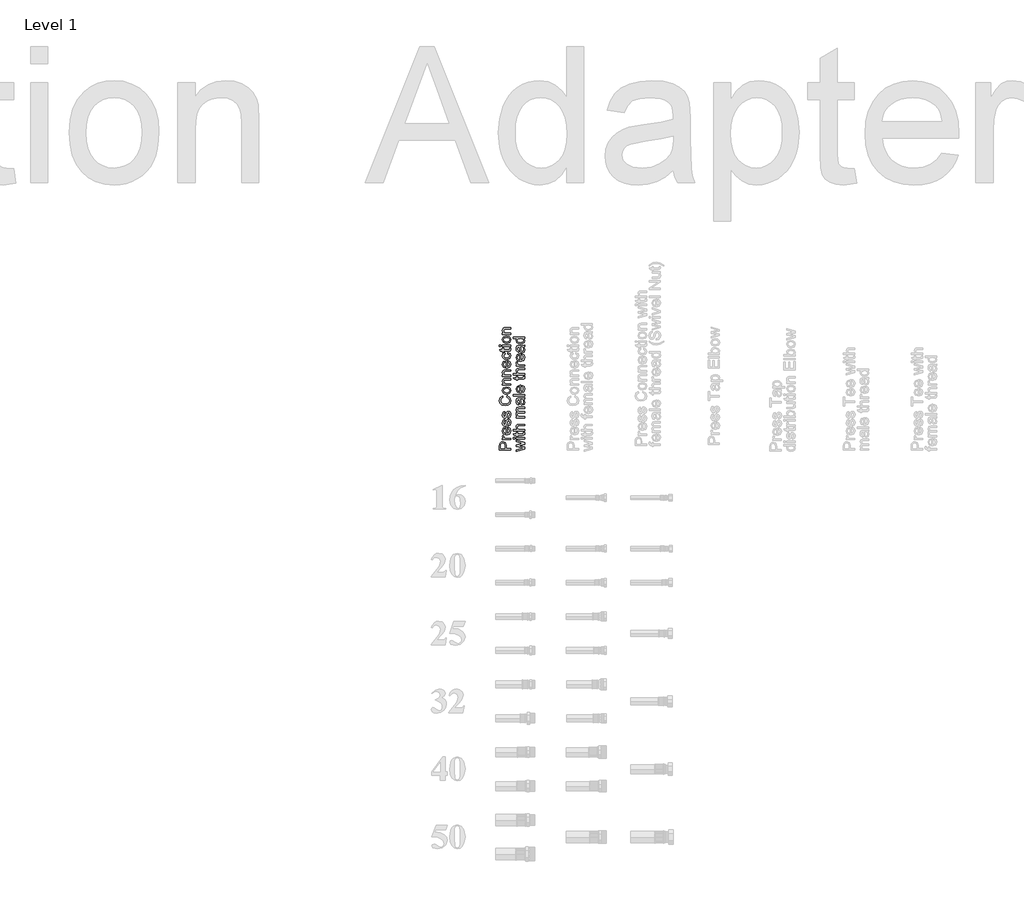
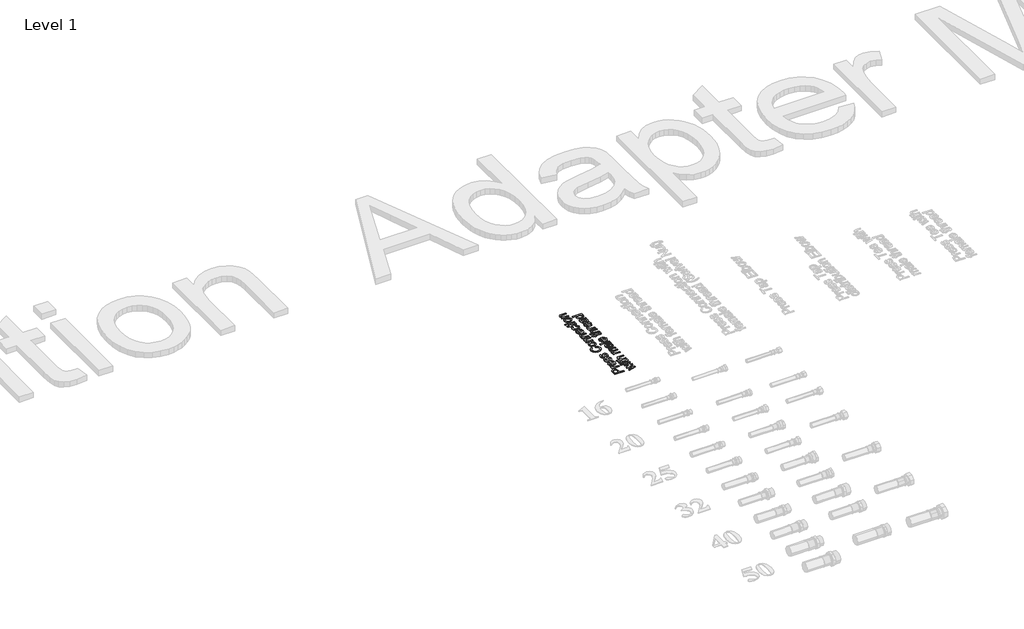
# One storey, part 40 of 57: 1 proxy.
"""IFC4 building model written with IfcOpenShell, lengths in millimetres."""

import ifcopenshell
import ifcopenshell.guid

model = None  # the IFC model being written
_history = None  # IfcOwnerHistory: only IFC2X3 demands one
_inside = {}  # id of a spatial element -> (the spatial element, [elements in it])
_under = {}  # id of a project, library or spatial element -> (it, [spatial elements below it])
_declared = {}  # id of a project -> (the project, [libraries it declares])
_typed = {}  # id of a type object -> (the type object, [elements of that type])
_made_of = {}  # id of a material, layer set ... -> (it, [elements and type objects made of it])


def new_model(schema):
    """Start an empty IFC model of exactly this schema.

    Asked for "IFC4X3", IfcOpenShell would pick the latest addendum, in which some entities
    have other attributes; the version numbers below select the first issue.
    IFC2X3 requires an IfcOwnerHistory on every rooted entity: one is made here for all.
    """
    global model, _history
    if schema == "IFC4X3":
        model = ifcopenshell.file(schema_version=(4, 3, 0, 0))
    else:
        model = ifcopenshell.file(schema=schema)
    _inside.clear()
    _under.clear()
    _declared.clear()
    _typed.clear()
    _made_of.clear()
    _history = None
    if model.schema == "IFC2X3":
        org = make("IfcOrganization", Name="unknown")
        user = make(
            "IfcPersonAndOrganization",
            ThePerson=make("IfcPerson", FamilyName="unknown"),
            TheOrganization=org,
        )
        app = make(
            "IfcApplication",
            ApplicationDeveloper=org,
            Version="unknown",
            ApplicationFullName="unknown",
            ApplicationIdentifier="unknown",
        )
        _history = make(
            "IfcOwnerHistory",
            OwningUser=user,
            OwningApplication=app,
            ChangeAction="ADDED",
            CreationDate=0,
        )
    return model


def make(cls, **values):
    """One entity of the class cls with the attributes given. An attribute that is None is left unset."""
    return model.create_entity(
        cls, **{name: value for name, value in values.items() if value is not None}
    )


def rooted(cls, **values):
    """An entity with a GlobalId (a new one), such as an element, a storey or a relation."""
    return make(cls, GlobalId=ifcopenshell.guid.new(), OwnerHistory=_history, **values)


def si_unit(unit_type, name, prefix=None):
    """IfcSIUnit, for example si_unit("LENGTHUNIT", "METRE", prefix="MILLI")."""
    return make("IfcSIUnit", UnitType=unit_type, Prefix=prefix, Name=name)


def assignment(units):
    """IfcUnitAssignment: the units of a project."""
    return None if units is None else make("IfcUnitAssignment", Units=units)


def point(xyz):
    """IfcCartesianPoint."""
    return None if xyz is None else make("IfcCartesianPoint", Coordinates=xyz)


def direction(xyz):
    """IfcDirection."""
    return None if xyz is None else make("IfcDirection", DirectionRatios=xyz)


def frame(location, z_axis=None, x_axis=None):
    """IfcAxis2Placement3D, a coordinate frame: its origin and axes. An axis left out is left unset."""
    return make(
        "IfcAxis2Placement3D",
        Location=point(location),
        Axis=direction(z_axis),
        RefDirection=direction(x_axis),
    )


def origin():
    """The frame at (0, 0, 0) with its axes left unset."""
    return frame((0.0, 0.0, 0.0))


def place(relative_to, where):
    """IfcLocalPlacement: puts the frame where relative to a parent placement (None: the world)."""
    return make(
        "IfcLocalPlacement", PlacementRelTo=relative_to, RelativePlacement=where
    )


def context(
    kind, dimensions, precision=None, world=None, true_north=None, identifier=None
):
    """IfcGeometricRepresentationContext, for example the 3D "Model" context."""
    return make(
        "IfcGeometricRepresentationContext",
        ContextIdentifier=identifier,
        ContextType=kind,
        CoordinateSpaceDimension=dimensions,
        Precision=precision,
        WorldCoordinateSystem=world,
        TrueNorth=true_north,
    )


def project(units=None, contexts=None):
    """IfcProject with its units and contexts."""
    return rooted(
        "IfcProject",
        Name="project",
        RepresentationContexts=contexts,
        UnitsInContext=assignment(units),
    )


def spatial(cls, under=None, at=None, **own):
    """A site, building, storey or space (cls), placed at a placement, below another one or the project."""
    s = rooted(cls, ObjectPlacement=at, **own)
    if under is not None:
        _under.setdefault(under.id(), (under, []))[1].append(s)
    return s


def polyline(points):
    """IfcPolyline through the points."""
    return make("IfcPolyline", Points=[point(p) for p in points])


def outline(outer, holes=None, kind="AREA"):
    """IfcArbitraryClosedProfileDef: a profile drawn as a closed curve; with holes, ...WithVoids."""
    if holes is None:
        return make("IfcArbitraryClosedProfileDef", ProfileType=kind, OuterCurve=outer)
    return make(
        "IfcArbitraryProfileDefWithVoids",
        ProfileType=kind,
        OuterCurve=outer,
        InnerCurves=holes,
    )


def extrude(swept, where, along, depth):
    """IfcExtrudedAreaSolid: the profile swept, set in the frame where, extruded along a direction by depth."""
    return make(
        "IfcExtrudedAreaSolid",
        SweptArea=swept,
        Position=where,
        ExtrudedDirection=direction(along),
        Depth=depth,
    )


def shape(context_of_items, identifier, shape_type, items):
    """IfcShapeRepresentation: the items that make up one representation, for example the "Body"."""
    return make(
        "IfcShapeRepresentation",
        ContextOfItems=context_of_items,
        RepresentationIdentifier=identifier,
        RepresentationType=shape_type,
        Items=items,
    )


def made_of(thing, what):
    """Note that an element or type object is made of a material, layer set ...; save() writes the relation."""
    if what is not None:
        _made_of.setdefault(what.id(), (what, []))[1].append(thing)
    return thing


def element(
    cls,
    number,
    at=None,
    inside=None,
    cuts=None,
    type_object=None,
    material=None,
    context=None,
    identifier="Body",
    shape_type=None,
    held_by="IfcProductDefinitionShape",
    body=None,
    shapes=None,
    **own,
):
    """One element of the class cls, such as IfcWall. Its Tag is "e" and its number.

    at: its placement. inside: the storey or other place that contains it. cuts: it is an
    opening in that element (IfcRelVoidsElement). A single representation is given by context,
    identifier, shape_type and body (its items); several are given by shapes. held_by: the class
    of the entity that holds the representations. save() writes the other relations.
    """
    e = rooted(cls, Tag="e%d" % number, ObjectPlacement=at, **own)
    if body is not None:
        shapes = [shape(context, identifier, shape_type, body)]
    if shapes is not None:
        e.Representation = make(held_by, Representations=shapes)
    if inside is not None:
        _inside.setdefault(inside.id(), (inside, []))[1].append(e)
    if cuts is not None:
        rooted(
            "IfcRelVoidsElement", RelatingBuildingElement=cuts, RelatedOpeningElement=e
        )
    if type_object is not None:
        _typed.setdefault(type_object.id(), (type_object, []))[1].append(e)
    return made_of(e, material)


def aggregate(whole, parts):
    """IfcRelAggregates: a whole, such as a stair, and the parts it consists of."""
    return rooted("IfcRelAggregates", RelatingObject=whole, RelatedObjects=parts)


def save(model, path):
    """Write the relations noted so far, then the file.

    IfcRelAggregates (storeys below a building ...), IfcRelContainedInSpatialStructure (elements
    in a storey), IfcRelDefinesByType, IfcRelAssociatesMaterial and IfcRelDeclares: one each for
    every whole, place, type object, material and project.
    """
    for whole, parts in _under.values():
        aggregate(whole, parts)
    for where, things in _inside.values():
        rooted(
            "IfcRelContainedInSpatialStructure",
            RelatedElements=things,
            RelatingStructure=where,
        )
    for kind, things in _typed.values():
        rooted("IfcRelDefinesByType", RelatedObjects=things, RelatingType=kind)
    for what, things in _made_of.values():
        rooted("IfcRelAssociatesMaterial", RelatedObjects=things, RelatingMaterial=what)
    for by, libraries in _declared.values():
        rooted("IfcRelDeclares", RelatingContext=by, RelatedDefinitions=libraries)
    model.write(path)


model = new_model("IFC4")

# Units and contexts
model_context = context("Model", 3, world=origin())
ifc_project = project(units=[si_unit("LENGTHUNIT", "METRE", prefix="MILLI")], contexts=[model_context])

# Site, building, storey
site = spatial("IfcSite", under=ifc_project)
building = spatial("IfcBuilding", under=site)
storey = spatial("IfcBuildingStorey", under=building, Name="Level 1", Elevation=27.3876384)

# Proxy
placement = place(None, origin())
element("IfcBuildingElementProxy", 1, Name="50mm Arial", ObjectType="50mm Arial", at=placement, inside=storey, context=model_context, shape_type="SweptSolid", body=[
    extrude(outline(polyline([(29419.1417262, 30406.8112945), (29368.9135711, 30406.8112945), (29368.9135711, 30425.4261235), (29369.3918177, 30432.9309162), (29371.7401311, 30439.0316259), (29376.5961734, 30442.9863574), (29383.4449099, 30444.4824108), (29394.2974288, 30440.4418402), (29398.7365382, 30425.8553191), (29398.7365382, 30413.0898139), (29419.1417262, 30413.0898139), (29419.1417262, 30406.8112945)]), holes=[polyline([(29392.4580188, 30413.0898139), (29392.4580188, 30426.2232011), (29390.152625, 30435.4693019), (29383.6656391, 30438.2038914), (29378.4662402, 30436.591342), (29375.6212861, 30432.3545677), (29375.1920905, 30426.0760483), (29375.1920905, 30413.0898139), (29392.4580188, 30413.0898139)])]), frame((0.0, 0.0, 27.3876384), z_axis=(0.0, 0.0, 1.0), x_axis=(1.0, 0.0, 0.0)), (0.0, 0.0, 1.0), 2.0),
    extrude(outline(polyline([(29419.1417262, 30452.33056), (29382.2554248, 30452.33056), (29382.2554248, 30457.8242645), (29387.7123411, 30457.8242645), (29382.6846205, 30461.7238137), (29381.4706099, 30465.6478883), (29383.4081217, 30471.9509331), (29389.0367162, 30469.8540057), (29387.7491293, 30465.4394218), (29388.9876653, 30461.8893606), (29392.4212306, 30459.6268863), (29399.754345, 30458.6090794), (29419.1417262, 30458.6090794), (29419.1417262, 30452.33056)])), frame((0.0, 0.0, 27.3876384), z_axis=(0.0, 0.0, 1.0), x_axis=(1.0, 0.0, 0.0)), (0.0, 0.0, 1.0), 2.0),
    extrude(outline(polyline([(29408.1543173, 30501.7003238), (29408.9391322, 30507.8562159), (29417.0447988, 30502.0988626), (29419.9265411, 30491.3751025), (29414.9540028, 30478.3398171), (29401.0051438, 30473.520563), (29386.5964323, 30478.388868), (29381.4706099, 30491.0194832), (29386.5841696, 30503.2883477), (29400.9683556, 30508.0524196), (29402.6606128, 30508.0156314), (29402.6606128, 30479.7990824), (29410.8153304, 30483.4104573), (29413.6480217, 30491.4977298), (29412.3359093, 30497.6536219), (29408.1543173, 30501.7003238)]), holes=[polyline([(29396.3820934, 30479.7990824), (29396.3820934, 30501.7739002), (29390.6921852, 30499.2600399), (29387.7491293, 30490.9949577), (29390.0974427, 30483.2633045), (29396.3820934, 30479.7990824)])]), frame((0.0, 0.0, 27.3876384), z_axis=(0.0, 0.0, 1.0), x_axis=(1.0, 0.0, 0.0)), (0.0, 0.0, 1.0), 2.0),
    extrude(outline(polyline([(29408.1543173, 30511.9764942), (29407.3695023, 30518.2550136), (29412.0293409, 30521.1612813), (29413.6480217, 30527.8199455), (29412.164231, 30534.2210922), (29408.6816148, 30536.3057568), (29405.8611862, 30534.2088294), (29404.0708271, 30527.7463691), (29400.9990124, 30518.2918018), (29397.412163, 30514.1653921), (29392.3476542, 30512.7613091), (29387.6694215, 30513.8894806), (29384.0948348, 30516.9674266), (29382.2370307, 30520.9589462), (29381.4706099, 30526.3606802), (29382.7030146, 30534.000363), (29386.038478, 30538.8564053), (29391.6732039, 30541.0146464), (29392.4580188, 30534.736127), (29388.9937967, 30532.3755508), (29387.7491293, 30526.8511895), (29388.9386144, 30520.8424503), (29391.7099921, 30519.0398285), (29393.5371393, 30519.7878552), (29394.9228282, 30522.1300373), (29396.2594661, 30527.5379026), (29399.2147848, 30536.7533466), (29402.5625109, 30541.0330404), (29408.0194272, 30542.5842762), (29414.0281664, 30540.7632603), (29418.3875681, 30535.5086792), (29419.9265411, 30527.7341063), (29416.9589597, 30516.7834856), (29408.1543173, 30511.9764942)])), frame((0.0, 0.0, 27.3876384), z_axis=(0.0, 0.0, 1.0), x_axis=(1.0, 0.0, 0.0)), (0.0, 0.0, 1.0), 2.0),
    extrude(outline(polyline([(29408.1543173, 30547.2931657), (29407.3695023, 30553.5716851), (29412.0293409, 30556.4779529), (29413.6480217, 30563.136617), (29412.164231, 30569.5377637), (29408.6816148, 30571.6224283), (29405.8611862, 30569.525501), (29404.0708271, 30563.0630406), (29400.9990124, 30553.6084733), (29397.412163, 30549.4820636), (29392.3476542, 30548.0779807), (29387.6694215, 30549.2061521), (29384.0948348, 30552.2840981), (29382.2370307, 30556.2756178), (29381.4706099, 30561.6773517), (29382.7030146, 30569.3170345), (29386.038478, 30574.1730768), (29391.6732039, 30576.3313179), (29392.4580188, 30570.0527985), (29388.9937967, 30567.6922224), (29387.7491293, 30562.1678611), (29388.9386144, 30556.1591218), (29391.7099921, 30554.3565), (29393.5371393, 30555.1045268), (29394.9228282, 30557.4467088), (29396.2594661, 30562.8545741), (29399.2147848, 30572.0700181), (29402.5625109, 30576.349712), (29408.0194272, 30577.9009477), (29414.0281664, 30576.0799319), (29418.3875681, 30570.8253507), (29419.9265411, 30563.0507779), (29416.9589597, 30552.1001571), (29408.1543173, 30547.2931657)])), frame((0.0, 0.0, 27.3876384), z_axis=(0.0, 0.0, 1.0), x_axis=(1.0, 0.0, 0.0)), (0.0, 0.0, 1.0), 2.0),
    extrude(outline(polyline([(29401.2871867, 30640.6861416), (29402.9058675, 30646.964661), (29415.5671395, 30639.5211819), (29419.9265411, 30626.375532), (29416.6278659, 30613.3095898), (29407.0751967, 30605.6453815), (29393.6475039, 30603.0150253), (29379.9990819, 30605.9887381), (29371.1515199, 30614.4438926), (29368.1287562, 30626.510422), (29372.0405681, 30639.0858549), (29383.0525025, 30646.179846), (29384.5485559, 30639.9013267), (29376.8291654, 30634.7509787), (29374.4072756, 30626.2651674), (29377.0928141, 30616.4427181), (29384.3033012, 30610.8938313), (29393.6352412, 30609.2935447), (29404.4509718, 30611.1881369), (29411.361022, 30617.0865116), (29413.6480217, 30625.7501326), (29410.5332875, 30635.357984), (29401.2871867, 30640.6861416)])), frame((0.0, 0.0, 27.3876384), z_axis=(0.0, 0.0, 1.0), x_axis=(1.0, 0.0, 0.0)), (0.0, 0.0, 1.0), 2.0),
    extrude(outline(polyline([(29400.6985755, 30653.2431803), (29391.8050283, 30654.601278), (29385.5541, 30658.6755711), (29381.4706099, 30669.7365565), (29386.4431482, 30681.6007508), (29400.1835407, 30686.2054071), (29411.3548906, 30684.1697934), (29417.6763296, 30678.2407619), (29419.9265411, 30669.7365565), (29414.9723969, 30657.7987857), (29400.6985755, 30653.2431803)]), holes=[polyline([(29400.6863128, 30659.5216997), (29410.4167915, 30662.4279675), (29413.6480217, 30669.7365565), (29410.3983974, 30677.02062), (29400.490109, 30679.9268877), (29390.9803594, 30677.0022259), (29387.7491293, 30669.7365565), (29390.9680967, 30662.4279675), (29400.6863128, 30659.5216997)])]), frame((0.0, 0.0, 27.3876384), z_axis=(0.0, 0.0, 1.0), x_axis=(1.0, 0.0, 0.0)), (0.0, 0.0, 1.0), 2.0),
    extrude(outline(polyline([(29419.1417262, 30693.2687414), (29382.2554248, 30693.2687414), (29382.2554248, 30699.5472608), (29387.4057727, 30699.5472608), (29382.9544006, 30704.3481208), (29381.4706099, 30710.9025517), (29382.6662264, 30716.8315832), (29385.805486, 30720.8782852), (29390.4224051, 30722.7606147), (29396.492458, 30723.0917085), (29419.1417262, 30723.0917085), (29419.1417262, 30716.8131891), (29397.3385866, 30716.8131891), (29391.7835685, 30716.0896879), (29388.8466439, 30713.532908), (29387.7491293, 30709.2225573), (29390.2139386, 30702.410609), (29399.570404, 30699.5472608), (29419.1417262, 30699.5472608), (29419.1417262, 30693.2687414)])), frame((0.0, 0.0, 27.3876384), z_axis=(0.0, 0.0, 1.0), x_axis=(1.0, 0.0, 0.0)), (0.0, 0.0, 1.0), 2.0),
    extrude(outline(polyline([(29419.1417262, 30731.7246726), (29382.2554248, 30731.7246726), (29382.2554248, 30738.003192), (29387.4057727, 30738.003192), (29382.9544006, 30742.8040521), (29381.4706099, 30749.358483), (29382.6662264, 30755.2875144), (29385.805486, 30759.3342164), (29390.4224051, 30761.2165459), (29396.492458, 30761.5476397), (29419.1417262, 30761.5476397), (29419.1417262, 30755.2691203), (29397.3385866, 30755.2691203), (29391.7835685, 30754.5456191), (29388.8466439, 30751.9888392), (29387.7491293, 30747.6784885), (29390.2139386, 30740.8665402), (29399.570404, 30738.003192), (29419.1417262, 30738.003192), (29419.1417262, 30731.7246726)])), frame((0.0, 0.0, 27.3876384), z_axis=(0.0, 0.0, 1.0), x_axis=(1.0, 0.0, 0.0)), (0.0, 0.0, 1.0), 2.0),
    extrude(outline(polyline([(29408.1543173, 30796.0059199), (29408.9391322, 30802.161812), (29417.0447988, 30796.4044588), (29419.9265411, 30785.6806986), (29414.9540028, 30772.6454132), (29401.0051438, 30767.8261591), (29386.5964323, 30772.6944642), (29381.4706099, 30785.3250793), (29386.5841696, 30797.5939439), (29400.9683556, 30802.3580157), (29402.6606128, 30802.3212275), (29402.6606128, 30774.1046785), (29410.8153304, 30777.7160534), (29413.6480217, 30785.8033259), (29412.3359093, 30791.959218), (29408.1543173, 30796.0059199)]), holes=[polyline([(29396.3820934, 30774.1046785), (29396.3820934, 30796.0794963), (29390.6921852, 30793.565636), (29387.7491293, 30785.3005539), (29390.0974427, 30777.5689006), (29396.3820934, 30774.1046785)])]), frame((0.0, 0.0, 27.3876384), z_axis=(0.0, 0.0, 1.0), x_axis=(1.0, 0.0, 0.0)), (0.0, 0.0, 1.0), 2.0),
    extrude(outline(polyline([(29405.7998725, 30832.1809828), (29406.5846874, 30838.4595022), (29416.3887426, 30833.4195188), (29419.9265411, 30823.4621795), (29414.990791, 30811.561197), (29400.8334656, 30807.0669053), (29390.404011, 30808.986023), (29383.7024273, 30814.8353467), (29381.4706099, 30823.3763404), (29384.5362932, 30832.9228782), (29393.2428337, 30837.6746873), (29394.0276486, 30831.3961679), (29389.3248905, 30828.4837687), (29387.7491293, 30823.4253913), (29390.8516007, 30816.1474592), (29400.6617873, 30813.3454246), (29410.5639443, 30816.0861455), (29413.6480217, 30823.253713), (29411.7227726, 30829.1704818), (29405.7998725, 30832.1809828)])), frame((0.0, 0.0, 27.3876384), z_axis=(0.0, 0.0, 1.0), x_axis=(1.0, 0.0, 0.0)), (0.0, 0.0, 1.0), 2.0),
    extrude(outline(polyline([(29413.9055391, 30857.2950603), (29419.3256672, 30858.0798753), (29419.9265411, 30853.3832485), (29418.8842088, 30848.1225359), (29416.1496193, 30845.498311), (29409.0249713, 30844.7380216), (29388.5339442, 30844.7380216), (29388.5339442, 30840.029132), (29382.2554248, 30840.029132), (29382.2554248, 30844.7380216), (29373.2913668, 30844.7380216), (29369.6002842, 30851.016541), (29382.2554248, 30851.016541), (29382.2554248, 30857.2950603), (29388.5339442, 30857.2950603), (29388.5339442, 30851.016541), (29408.8410303, 30851.016541), (29412.0783919, 30851.3476347), (29413.6480217, 30854.5604708), (29413.9055391, 30857.2950603)])), frame((0.0, 0.0, 27.3876384), z_axis=(0.0, 0.0, 1.0), x_axis=(1.0, 0.0, 0.0)), (0.0, 0.0, 1.0), 2.0),
    extrude(outline(polyline([(29375.1920905, 30863.5735797), (29368.9135711, 30863.5735797), (29368.9135711, 30869.8520991), (29375.1920905, 30869.8520991), (29375.1920905, 30863.5735797)])), frame((0.0, 0.0, 27.3876384), z_axis=(0.0, 0.0, 1.0), x_axis=(1.0, 0.0, 0.0)), (0.0, 0.0, 1.0), 2.0),
    extrude(outline(polyline([(29419.1417262, 30863.5735797), (29382.2554248, 30863.5735797), (29382.2554248, 30869.8520991), (29419.1417262, 30869.8520991), (29419.1417262, 30863.5735797)])), frame((0.0, 0.0, 27.3876384), z_axis=(0.0, 0.0, 1.0), x_axis=(1.0, 0.0, 0.0)), (0.0, 0.0, 1.0), 2.0),
    extrude(outline(polyline([(29400.6985755, 30877.7002483), (29391.8050283, 30879.058346), (29385.5541, 30883.1326391), (29381.4706099, 30894.1936245), (29386.4431482, 30906.0578188), (29400.1835407, 30910.6624751), (29411.3548906, 30908.6268614), (29417.6763296, 30902.6978299), (29419.9265411, 30894.1936245), (29414.9723969, 30882.2558537), (29400.6985755, 30877.7002483)]), holes=[polyline([(29400.6863128, 30883.9787677), (29410.4167915, 30886.8850355), (29413.6480217, 30894.1936245), (29410.3983974, 30901.477688), (29400.490109, 30904.3839557), (29390.9803594, 30901.4592939), (29387.7491293, 30894.1936245), (29390.9680967, 30886.8850355), (29400.6863128, 30883.9787677)])]), frame((0.0, 0.0, 27.3876384), z_axis=(0.0, 0.0, 1.0), x_axis=(1.0, 0.0, 0.0)), (0.0, 0.0, 1.0), 2.0),
    extrude(outline(polyline([(29419.1417262, 30917.7258094), (29382.2554248, 30917.7258094), (29382.2554248, 30924.0043288), (29387.4057727, 30924.0043288), (29382.9544006, 30928.8051888), (29381.4706099, 30935.3596197), (29382.6662264, 30941.2886512), (29385.805486, 30945.3353531), (29390.4224051, 30947.2176827), (29396.492458, 30947.5487765), (29419.1417262, 30947.5487765), (29419.1417262, 30941.2702571), (29397.3385866, 30941.2702571), (29391.7835685, 30940.5467558), (29388.8466439, 30937.989976), (29387.7491293, 30933.6796253), (29390.2139386, 30926.867677), (29399.570404, 30924.0043288), (29419.1417262, 30924.0043288), (29419.1417262, 30917.7258094)])), frame((0.0, 0.0, 27.3876384), z_axis=(0.0, 0.0, 1.0), x_axis=(1.0, 0.0, 0.0)), (0.0, 0.0, 1.0), 2.0),
    extrude(outline(polyline([(29480.1291351, 30412.1455834), (29443.2428337, 30400.9251826), (29443.2428337, 30407.4489566), (29464.7639304, 30413.8133152), (29472.4526641, 30415.7140388), (29465.0459733, 30417.2714059), (29443.2428337, 30422.3359147), (29443.2428337, 30429.8161819), (29464.9846596, 30434.8561653), (29471.6923747, 30436.2418541), (29464.6167776, 30438.2284169), (29443.2428337, 30444.6050381), (29443.2428337, 30451.1533377), (29480.1291351, 30439.8470977), (29480.1291351, 30432.2564658), (29458.4976738, 30427.4372117), (29451.7531705, 30426.0392601), (29480.1291351, 30419.8220544), (29480.1291351, 30412.1455834)])), frame((0.0, 0.0, 27.3876384), z_axis=(0.0, 0.0, 1.0), x_axis=(1.0, 0.0, 0.0)), (0.0, 0.0, 1.0), 2.0),
    extrude(outline(polyline([(29436.1794994, 30455.4698197), (29429.90098, 30455.4698197), (29429.90098, 30461.7483391), (29436.1794994, 30461.7483391), (29436.1794994, 30455.4698197)])), frame((0.0, 0.0, 27.3876384), z_axis=(0.0, 0.0, 1.0), x_axis=(1.0, 0.0, 0.0)), (0.0, 0.0, 1.0), 2.0),
    extrude(outline(polyline([(29480.1291351, 30455.4698197), (29443.2428337, 30455.4698197), (29443.2428337, 30461.7483391), (29480.1291351, 30461.7483391), (29480.1291351, 30455.4698197)])), frame((0.0, 0.0, 27.3876384), z_axis=(0.0, 0.0, 1.0), x_axis=(1.0, 0.0, 0.0)), (0.0, 0.0, 1.0), 2.0),
    extrude(outline(polyline([(29474.892948, 30484.5079719), (29480.3130761, 30485.2927868), (29480.91395, 30480.59616), (29479.8716177, 30475.3354475), (29477.1370282, 30472.7112226), (29470.0123802, 30471.9509331), (29449.5213531, 30471.9509331), (29449.5213531, 30467.2420436), (29443.2428337, 30467.2420436), (29443.2428337, 30471.9509331), (29434.2787758, 30471.9509331), (29430.5876931, 30478.2294525), (29443.2428337, 30478.2294525), (29443.2428337, 30484.5079719), (29449.5213531, 30484.5079719), (29449.5213531, 30478.2294525), (29469.8284392, 30478.2294525), (29473.0658008, 30478.5605463), (29474.6354306, 30481.7733824), (29474.892948, 30484.5079719)])), frame((0.0, 0.0, 27.3876384), z_axis=(0.0, 0.0, 1.0), x_axis=(1.0, 0.0, 0.0)), (0.0, 0.0, 1.0), 2.0),
    extrude(outline(polyline([(29480.1291351, 30490.7864913), (29429.90098, 30490.7864913), (29429.90098, 30497.0650107), (29448.3686562, 30497.0650107), (29442.4580188, 30507.9911059), (29444.0705682, 30515.0421775), (29448.5280717, 30519.3218714), (29456.7808911, 30520.6094584), (29480.1291351, 30520.6094584), (29480.1291351, 30514.330939), (29457.430816, 30514.330939), (29450.8089401, 30512.3321135), (29448.7365382, 30506.6667307), (29450.1344898, 30501.5225142), (29453.9236743, 30498.0889489), (29460.5332875, 30497.0650107), (29480.1291351, 30497.0650107), (29480.1291351, 30490.7864913)])), frame((0.0, 0.0, 27.3876384), z_axis=(0.0, 0.0, 1.0), x_axis=(1.0, 0.0, 0.0)), (0.0, 0.0, 1.0), 2.0),
    extrude(outline(polyline([(29480.1291351, 30548.8627956), (29443.2428337, 30548.8627956), (29443.2428337, 30555.141315), (29449.3128866, 30555.141315), (29444.3403483, 30559.457797), (29442.4580188, 30565.6014264), (29444.3771365, 30571.8922085), (29449.754345, 30575.3502992), (29444.2821004, 30580.2492611), (29442.4580188, 30586.43581), (29445.4930453, 30594.6457099), (29454.8433793, 30597.5213208), (29480.1291351, 30597.5213208), (29480.1291351, 30591.2428014), (29457.5411806, 30591.2428014), (29452.2988622, 30590.6603216), (29449.7175568, 30588.5511315), (29448.7365382, 30584.964282), (29451.2503985, 30578.7899959), (29459.3070142, 30576.3313179), (29480.1291351, 30576.3313179), (29480.1291351, 30570.0527985), (29456.8422048, 30570.0527985), (29450.7598892, 30568.5996646), (29448.7365382, 30563.8355928), (29450.0854388, 30559.1880169), (29454.0340389, 30556.0978082), (29461.5265689, 30555.141315), (29480.1291351, 30555.141315), (29480.1291351, 30548.8627956)])), frame((0.0, 0.0, 27.3876384), z_axis=(0.0, 0.0, 1.0), x_axis=(1.0, 0.0, 0.0)), (0.0, 0.0, 1.0), 2.0),
    extrude(outline(polyline([(29475.4202456, 30630.4835476), (29479.675414, 30624.3951006), (29480.91395, 30617.6689914), (29477.9341059, 30608.5516493), (29470.3189486, 30605.36947), (29465.3525416, 30606.5712179), (29461.7472981, 30609.7288717), (29459.6871589, 30614.1250615), (29458.7429284, 30619.5574523), (29456.5846874, 30630.4467594), (29450.5514227, 30628.7545022), (29448.7365382, 30621.8137952), (29449.9444174, 30615.4616994), (29454.2302426, 30612.4328043), (29453.4454277, 30606.154285), (29447.3140611, 30608.8704804), (29443.7210803, 30614.3396594), (29442.4580188, 30622.6231356), (29443.5739275, 30630.2321615), (29446.375962, 30634.5302495), (29450.6372618, 30636.4554986), (29456.1309663, 30636.762067), (29463.9423273, 30636.762067), (29474.8500285, 30637.080898), (29480.1291351, 30638.3316968), (29480.1291351, 30632.0531774), (29475.4202456, 30630.4835476)]), holes=[polyline([(29462.8632068, 30630.4835476), (29464.7884559, 30620.35453), (29465.8062628, 30614.952796), (29467.4617317, 30612.5063807), (29469.8774902, 30611.6479894), (29473.2742673, 30613.5180562), (29474.6354306, 30619.0056293), (29473.1332458, 30625.3577251), (29469.4973454, 30629.453478), (29464.6413031, 30630.4467594), (29462.8632068, 30630.4835476)])]), frame((0.0, 0.0, 27.3876384), z_axis=(0.0, 0.0, 1.0), x_axis=(1.0, 0.0, 0.0)), (0.0, 0.0, 1.0), 2.0),
    extrude(outline(polyline([(29480.1291351, 30645.3950311), (29429.90098, 30645.3950311), (29429.90098, 30651.6735505), (29480.1291351, 30651.6735505), (29480.1291351, 30645.3950311)])), frame((0.0, 0.0, 27.3876384), z_axis=(0.0, 0.0, 1.0), x_axis=(1.0, 0.0, 0.0)), (0.0, 0.0, 1.0), 2.0),
    extrude(outline(polyline([(29469.1417262, 30686.9166456), (29469.9265411, 30693.0725377), (29478.0322077, 30687.3151845), (29480.91395, 30676.5914243), (29475.9414117, 30663.5561389), (29461.9925527, 30658.7368848), (29447.5838413, 30663.6051899), (29442.4580188, 30676.235805), (29447.5715785, 30688.5046696), (29461.9557645, 30693.2687414), (29463.6480217, 30693.2319532), (29463.6480217, 30665.0154042), (29471.8027393, 30668.6267791), (29474.6354306, 30676.7140516), (29473.3233182, 30682.8699437), (29469.1417262, 30686.9166456)]), holes=[polyline([(29457.3695023, 30665.0154042), (29457.3695023, 30686.990222), (29451.6795941, 30684.4763617), (29448.7365382, 30676.2112796), (29451.0848516, 30668.4796263), (29457.3695023, 30665.0154042)])]), frame((0.0, 0.0, 27.3876384), z_axis=(0.0, 0.0, 1.0), x_axis=(1.0, 0.0, 0.0)), (0.0, 0.0, 1.0), 2.0),
    extrude(outline(polyline([(29474.892948, 30732.5094876), (29480.3130761, 30733.2943025), (29480.91395, 30728.5976757), (29479.8716177, 30723.3369632), (29477.1370282, 30720.7127383), (29470.0123802, 30719.9524488), (29449.5213531, 30719.9524488), (29449.5213531, 30715.2435593), (29443.2428337, 30715.2435593), (29443.2428337, 30719.9524488), (29434.2787758, 30719.9524488), (29430.5876931, 30726.2309682), (29443.2428337, 30726.2309682), (29443.2428337, 30732.5094876), (29449.5213531, 30732.5094876), (29449.5213531, 30726.2309682), (29469.8284392, 30726.2309682), (29473.0658008, 30726.562062), (29474.6354306, 30729.7748981), (29474.892948, 30732.5094876)])), frame((0.0, 0.0, 27.3876384), z_axis=(0.0, 0.0, 1.0), x_axis=(1.0, 0.0, 0.0)), (0.0, 0.0, 1.0), 2.0),
    extrude(outline(polyline([(29480.1291351, 30738.788007), (29429.90098, 30738.788007), (29429.90098, 30745.0665263), (29448.3686562, 30745.0665263), (29442.4580188, 30755.9926216), (29444.0705682, 30763.0436932), (29448.5280717, 30767.323387), (29456.7808911, 30768.610974), (29480.1291351, 30768.610974), (29480.1291351, 30762.3324546), (29457.430816, 30762.3324546), (29450.8089401, 30760.3336291), (29448.7365382, 30754.6682464), (29450.1344898, 30749.5240298), (29453.9236743, 30746.0904646), (29460.5332875, 30745.0665263), (29480.1291351, 30745.0665263), (29480.1291351, 30738.788007)])), frame((0.0, 0.0, 27.3876384), z_axis=(0.0, 0.0, 1.0), x_axis=(1.0, 0.0, 0.0)), (0.0, 0.0, 1.0), 2.0),
    extrude(outline(polyline([(29480.1291351, 30777.2439382), (29443.2428337, 30777.2439382), (29443.2428337, 30782.7376426), (29448.69975, 30782.7376426), (29443.6720294, 30786.6371918), (29442.4580188, 30790.5612664), (29444.3955306, 30796.8643113), (29450.0241252, 30794.7673839), (29448.7365382, 30790.3527999), (29449.9750742, 30786.8027387), (29453.4086395, 30784.5402644), (29460.741754, 30783.5224576), (29480.1291351, 30783.5224576), (29480.1291351, 30777.2439382)])), frame((0.0, 0.0, 27.3876384), z_axis=(0.0, 0.0, 1.0), x_axis=(1.0, 0.0, 0.0)), (0.0, 0.0, 1.0), 2.0),
    extrude(outline(polyline([(29469.1417262, 30826.6137019), (29469.9265411, 30832.769594), (29478.0322077, 30827.0122408), (29480.91395, 30816.2884806), (29475.9414117, 30803.2531952), (29461.9925527, 30798.4339411), (29447.5838413, 30803.3022462), (29442.4580188, 30815.9328613), (29447.5715785, 30828.2017259), (29461.9557645, 30832.9657977), (29463.6480217, 30832.9290095), (29463.6480217, 30804.7124605), (29471.8027393, 30808.3238354), (29474.6354306, 30816.4111079), (29473.3233182, 30822.567), (29469.1417262, 30826.6137019)]), holes=[polyline([(29457.3695023, 30804.7124605), (29457.3695023, 30826.6872783), (29451.6795941, 30824.173418), (29448.7365382, 30815.9083359), (29451.0848516, 30808.1766826), (29457.3695023, 30804.7124605)])]), frame((0.0, 0.0, 27.3876384), z_axis=(0.0, 0.0, 1.0), x_axis=(1.0, 0.0, 0.0)), (0.0, 0.0, 1.0), 2.0),
    extrude(outline(polyline([(29475.4202456, 30862.7887648), (29479.675414, 30856.7003178), (29480.91395, 30849.9742086), (29477.9341059, 30840.8568665), (29470.3189486, 30837.6746873), (29465.3525416, 30838.8764351), (29461.7472981, 30842.0340889), (29459.6871589, 30846.4302787), (29458.7429284, 30851.8626695), (29456.5846874, 30862.7519766), (29450.5514227, 30861.0597194), (29448.7365382, 30854.1190124), (29449.9444174, 30847.7669167), (29454.2302426, 30844.7380216), (29453.4454277, 30838.4595022), (29447.3140611, 30841.1756976), (29443.7210803, 30846.6448766), (29442.4580188, 30854.9283528), (29443.5739275, 30862.5373788), (29446.375962, 30866.8354667), (29450.6372618, 30868.7607159), (29456.1309663, 30869.0672842), (29463.9423273, 30869.0672842), (29474.8500285, 30869.3861152), (29480.1291351, 30870.636914), (29480.1291351, 30864.3583946), (29475.4202456, 30862.7887648)]), holes=[polyline([(29462.8632068, 30862.7887648), (29464.7884559, 30852.6597472), (29465.8062628, 30847.2580132), (29467.4617317, 30844.811598), (29469.8774902, 30843.9532066), (29473.2742673, 30845.8232735), (29474.6354306, 30851.3108465), (29473.1332458, 30857.6629423), (29469.4973454, 30861.7586952), (29464.6413031, 30862.7519766), (29462.8632068, 30862.7887648)])]), frame((0.0, 0.0, 27.3876384), z_axis=(0.0, 0.0, 1.0), x_axis=(1.0, 0.0, 0.0)), (0.0, 0.0, 1.0), 2.0),
    extrude(outline(polyline([(29480.1291351, 30900.4598811), (29474.206235, 30900.4598811), (29479.2370213, 30896.3058802), (29480.91395, 30890.5638554), (29478.4859289, 30882.7892826), (29471.7107688, 30877.2955781), (29461.7227726, 30875.3458036), (29451.7286451, 30877.142294), (29444.8492518, 30882.5256338), (29442.4580188, 30890.53933), (29444.1686701, 30896.32734), (29448.6139108, 30900.4598811), (29429.90098, 30900.4598811), (29429.90098, 30906.7384005), (29480.1291351, 30906.7384005), (29480.1291351, 30900.4598811)]), holes=[polyline([(29461.6982471, 30881.624323), (29471.4164632, 30884.4570143), (29474.6354306, 30891.1402039), (29471.563616, 30897.7436857), (29462.1764937, 30900.4598811), (29451.9861625, 30897.6946348), (29448.7365382, 30890.8826865), (29451.8574038, 30884.2730733), (29461.6982471, 30881.624323)])]), frame((0.0, 0.0, 27.3876384), z_axis=(0.0, 0.0, 1.0), x_axis=(1.0, 0.0, 0.0)), (0.0, 0.0, 1.0), 2.0),
])

save(model, "model.ifc")
